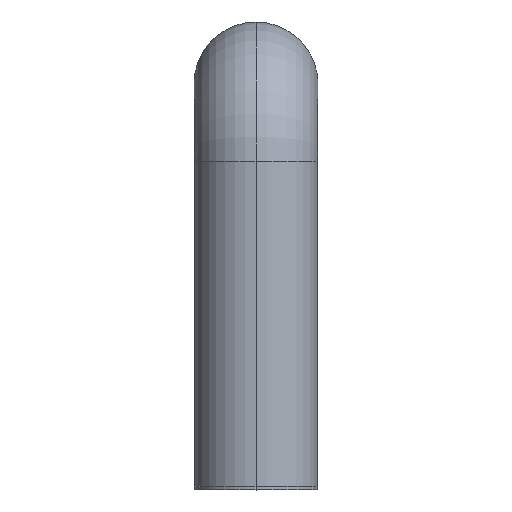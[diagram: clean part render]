
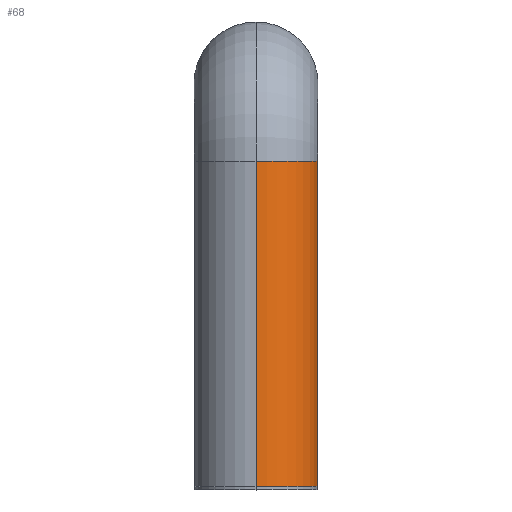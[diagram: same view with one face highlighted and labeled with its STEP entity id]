
A CAD part, top view. The second image highlights one B-rep face of the part: STEP entity #68.
In plain terms, the highlighted cylindrical face has radius 8 mm (diameter 16 mm), a partial arc.
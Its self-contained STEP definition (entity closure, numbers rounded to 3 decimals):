
#9 = DIRECTION ( 'NONE',  ( 0., 1., 0. ) ) ;
#10 = VERTEX_POINT ( 'NONE', #431 ) ;
#42 = VECTOR ( 'NONE', #106, 1000. ) ;
#62 = EDGE_CURVE ( 'NONE', #10, #242, #99, .T. ) ;
#68 = ADVANCED_FACE ( 'NONE', ( #211 ), #446, .T. ) ;
#98 = CIRCLE ( 'NONE', #540, 8. ) ;
#99 = LINE ( 'NONE', #219, #42 ) ;
#100 = CARTESIAN_POINT ( 'NONE',  ( 0., 0., -8. ) ) ;
#106 = DIRECTION ( 'NONE',  ( 0., 1., 0. ) ) ;
#120 = EDGE_LOOP ( 'NONE', ( #308, #277, #437, #513 ) ) ;
#168 = DIRECTION ( 'NONE',  ( 0., 0., 1. ) ) ;
#178 = CARTESIAN_POINT ( 'NONE',  ( 0., 42., 0. ) ) ;
#202 = CARTESIAN_POINT ( 'NONE',  ( 0., 0., 0. ) ) ;
#211 = FACE_OUTER_BOUND ( 'NONE', #120, .T. ) ;
#216 = CIRCLE ( 'NONE', #554, 8. ) ;
#219 = CARTESIAN_POINT ( 'NONE',  ( 0., 0., 8. ) ) ;
#242 = VERTEX_POINT ( 'NONE', #293 ) ;
#247 = DIRECTION ( 'NONE',  ( 0., 1., 0. ) ) ;
#251 = AXIS2_PLACEMENT_3D ( 'NONE', #202, #9, #168 ) ;
#277 = ORIENTED_EDGE ( 'NONE', *, *, #453, .T. ) ;
#293 = CARTESIAN_POINT ( 'NONE',  ( 0., 42., 8. ) ) ;
#297 = VERTEX_POINT ( 'NONE', #309 ) ;
#308 = ORIENTED_EDGE ( 'NONE', *, *, #529, .T. ) ;
#309 = CARTESIAN_POINT ( 'NONE',  ( 0., 0., -8. ) ) ;
#367 = DIRECTION ( 'NONE',  ( 0., 0., 1. ) ) ;
#417 = EDGE_CURVE ( 'NONE', #242, #424, #98, .T. ) ;
#424 = VERTEX_POINT ( 'NONE', #548 ) ;
#431 = CARTESIAN_POINT ( 'NONE',  ( 0., 0., 8. ) ) ;
#434 = DIRECTION ( 'NONE',  ( 0., 1., 0. ) ) ;
#437 = ORIENTED_EDGE ( 'NONE', *, *, #417, .F. ) ;
#446 = CYLINDRICAL_SURFACE ( 'NONE', #251, 8. ) ;
#453 = EDGE_CURVE ( 'NONE', #297, #424, #527, .T. ) ;
#513 = ORIENTED_EDGE ( 'NONE', *, *, #62, .F. ) ;
#515 = DIRECTION ( 'NONE',  ( 0., 1., 0. ) ) ;
#527 = LINE ( 'NONE', #100, #609 ) ;
#529 = EDGE_CURVE ( 'NONE', #10, #297, #216, .T. ) ;
#540 = AXIS2_PLACEMENT_3D ( 'NONE', #178, #515, #367 ) ;
#548 = CARTESIAN_POINT ( 'NONE',  ( 0., 42., -8. ) ) ;
#554 = AXIS2_PLACEMENT_3D ( 'NONE', #567, #247, #616 ) ;
#567 = CARTESIAN_POINT ( 'NONE',  ( 0., 0., 0. ) ) ;
#609 = VECTOR ( 'NONE', #434, 1000. ) ;
#616 = DIRECTION ( 'NONE',  ( 0., 0., 1. ) ) ;
